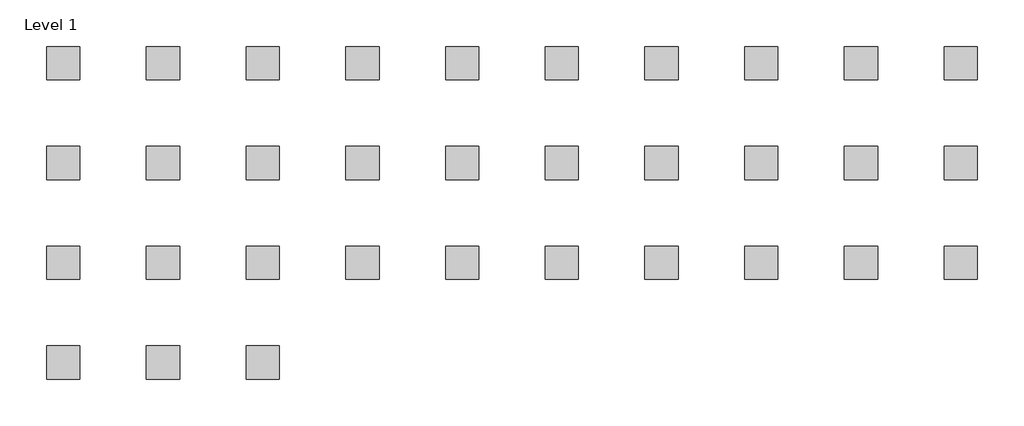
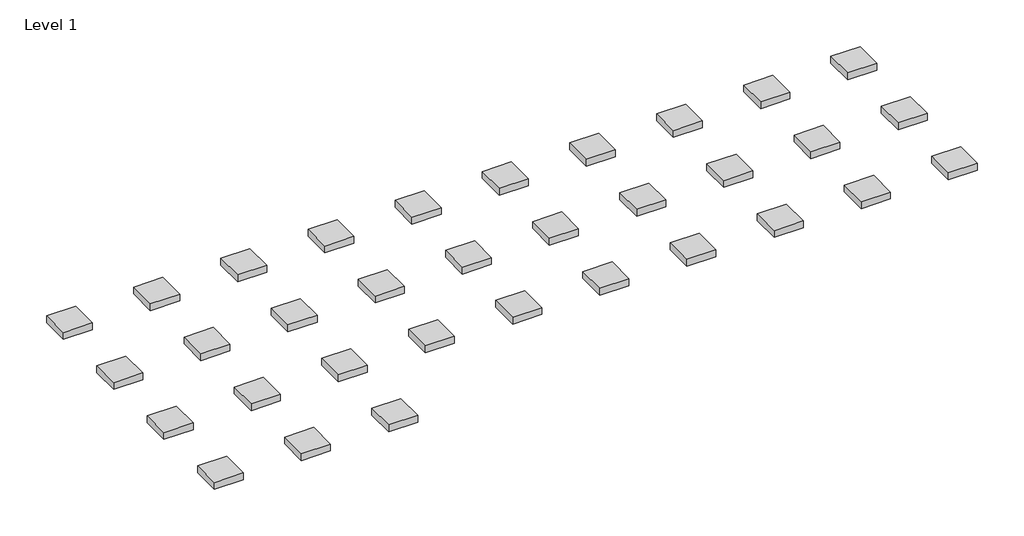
# One storey: 33 proxies.
"""IFC4 building model written with IfcOpenShell, lengths in millimetres."""

import ifcopenshell
import ifcopenshell.guid

model = None  # the IFC model being written
_history = None  # IfcOwnerHistory: only IFC2X3 demands one
_inside = {}  # id of a spatial element -> (the spatial element, [elements in it])
_under = {}  # id of a project, library or spatial element -> (it, [spatial elements below it])
_declared = {}  # id of a project -> (the project, [libraries it declares])
_typed = {}  # id of a type object -> (the type object, [elements of that type])
_made_of = {}  # id of a material, layer set ... -> (it, [elements and type objects made of it])


def new_model(schema):
    """Start an empty IFC model of exactly this schema.

    Asked for "IFC4X3", IfcOpenShell would pick the latest addendum, in which some entities
    have other attributes; the version numbers below select the first issue.
    IFC2X3 requires an IfcOwnerHistory on every rooted entity: one is made here for all.
    """
    global model, _history
    if schema == "IFC4X3":
        model = ifcopenshell.file(schema_version=(4, 3, 0, 0))
    else:
        model = ifcopenshell.file(schema=schema)
    _inside.clear()
    _under.clear()
    _declared.clear()
    _typed.clear()
    _made_of.clear()
    _history = None
    if model.schema == "IFC2X3":
        org = make("IfcOrganization", Name="unknown")
        user = make(
            "IfcPersonAndOrganization",
            ThePerson=make("IfcPerson", FamilyName="unknown"),
            TheOrganization=org,
        )
        app = make(
            "IfcApplication",
            ApplicationDeveloper=org,
            Version="unknown",
            ApplicationFullName="unknown",
            ApplicationIdentifier="unknown",
        )
        _history = make(
            "IfcOwnerHistory",
            OwningUser=user,
            OwningApplication=app,
            ChangeAction="ADDED",
            CreationDate=0,
        )
    return model


def make(cls, **values):
    """One entity of the class cls with the attributes given. An attribute that is None is left unset."""
    return model.create_entity(
        cls, **{name: value for name, value in values.items() if value is not None}
    )


def rooted(cls, **values):
    """An entity with a GlobalId (a new one), such as an element, a storey or a relation."""
    return make(cls, GlobalId=ifcopenshell.guid.new(), OwnerHistory=_history, **values)


def si_unit(unit_type, name, prefix=None):
    """IfcSIUnit, for example si_unit("LENGTHUNIT", "METRE", prefix="MILLI")."""
    return make("IfcSIUnit", UnitType=unit_type, Prefix=prefix, Name=name)


def assignment(units):
    """IfcUnitAssignment: the units of a project."""
    return None if units is None else make("IfcUnitAssignment", Units=units)


def point(xyz):
    """IfcCartesianPoint."""
    return None if xyz is None else make("IfcCartesianPoint", Coordinates=xyz)


def direction(xyz):
    """IfcDirection."""
    return None if xyz is None else make("IfcDirection", DirectionRatios=xyz)


def frame(location, z_axis=None, x_axis=None):
    """IfcAxis2Placement3D, a coordinate frame: its origin and axes. An axis left out is left unset."""
    return make(
        "IfcAxis2Placement3D",
        Location=point(location),
        Axis=direction(z_axis),
        RefDirection=direction(x_axis),
    )


def origin():
    """The frame at (0, 0, 0) with its axes left unset."""
    return frame((0.0, 0.0, 0.0))


def origin_with_axes():
    """The frame at (0, 0, 0) with the z axis (0, 0, 1) and the x axis (1, 0, 0) written out."""
    return frame((0.0, 0.0, 0.0), z_axis=(0.0, 0.0, 1.0), x_axis=(1.0, 0.0, 0.0))


def place(relative_to, where):
    """IfcLocalPlacement: puts the frame where relative to a parent placement (None: the world)."""
    return make(
        "IfcLocalPlacement", PlacementRelTo=relative_to, RelativePlacement=where
    )


def context(
    kind, dimensions, precision=None, world=None, true_north=None, identifier=None
):
    """IfcGeometricRepresentationContext, for example the 3D "Model" context."""
    return make(
        "IfcGeometricRepresentationContext",
        ContextIdentifier=identifier,
        ContextType=kind,
        CoordinateSpaceDimension=dimensions,
        Precision=precision,
        WorldCoordinateSystem=world,
        TrueNorth=true_north,
    )


def project(units=None, contexts=None):
    """IfcProject with its units and contexts."""
    return rooted(
        "IfcProject",
        Name="project",
        RepresentationContexts=contexts,
        UnitsInContext=assignment(units),
    )


def spatial(cls, under=None, at=None, **own):
    """A site, building, storey or space (cls), placed at a placement, below another one or the project."""
    s = rooted(cls, ObjectPlacement=at, **own)
    if under is not None:
        _under.setdefault(under.id(), (under, []))[1].append(s)
    return s


def polyline(points):
    """IfcPolyline through the points."""
    return make("IfcPolyline", Points=[point(p) for p in points])


def outline(outer, holes=None, kind="AREA"):
    """IfcArbitraryClosedProfileDef: a profile drawn as a closed curve; with holes, ...WithVoids."""
    if holes is None:
        return make("IfcArbitraryClosedProfileDef", ProfileType=kind, OuterCurve=outer)
    return make(
        "IfcArbitraryProfileDefWithVoids",
        ProfileType=kind,
        OuterCurve=outer,
        InnerCurves=holes,
    )


def extrude(swept, where, along, depth):
    """IfcExtrudedAreaSolid: the profile swept, set in the frame where, extruded along a direction by depth."""
    return make(
        "IfcExtrudedAreaSolid",
        SweptArea=swept,
        Position=where,
        ExtrudedDirection=direction(along),
        Depth=depth,
    )


def shape(context_of_items, identifier, shape_type, items):
    """IfcShapeRepresentation: the items that make up one representation, for example the "Body"."""
    return make(
        "IfcShapeRepresentation",
        ContextOfItems=context_of_items,
        RepresentationIdentifier=identifier,
        RepresentationType=shape_type,
        Items=items,
    )


def source(mapping_origin, context_of_items, identifier, shape_type, items):
    """IfcRepresentationMap: a shape defined once, which mapped items show again and again."""
    return make(
        "IfcRepresentationMap",
        MappingOrigin=mapping_origin,
        MappedRepresentation=shape(context_of_items, identifier, shape_type, items),
    )


def transform(
    local_origin,
    x_axis=None,
    y_axis=None,
    z_axis=None,
    scale=None,
    scale2=None,
    scale3=None,
    uniform=True,
):
    """IfcCartesianTransformationOperator3D, or its non-uniform kind. x_axis, y_axis, z_axis: its Axis1, 2, 3."""
    if uniform:
        return make(
            "IfcCartesianTransformationOperator3D",
            Axis1=direction(x_axis),
            Axis2=direction(y_axis),
            LocalOrigin=point(local_origin),
            Scale=scale,
            Axis3=direction(z_axis),
        )
    return make(
        "IfcCartesianTransformationOperator3DnonUniform",
        Axis1=direction(x_axis),
        Axis2=direction(y_axis),
        LocalOrigin=point(local_origin),
        Scale=scale,
        Axis3=direction(z_axis),
        Scale2=scale2,
        Scale3=scale3,
    )


def mapped(mapping_source, mapping_target):
    """IfcMappedItem: shows the shape of a source again, moved by a transform."""
    return make(
        "IfcMappedItem", MappingSource=mapping_source, MappingTarget=mapping_target
    )


def made_of(thing, what):
    """Note that an element or type object is made of a material, layer set ...; save() writes the relation."""
    if what is not None:
        _made_of.setdefault(what.id(), (what, []))[1].append(thing)
    return thing


def element(
    cls,
    number,
    at=None,
    inside=None,
    cuts=None,
    type_object=None,
    material=None,
    context=None,
    identifier="Body",
    shape_type=None,
    held_by="IfcProductDefinitionShape",
    body=None,
    shapes=None,
    **own,
):
    """One element of the class cls, such as IfcWall. Its Tag is "e" and its number.

    at: its placement. inside: the storey or other place that contains it. cuts: it is an
    opening in that element (IfcRelVoidsElement). A single representation is given by context,
    identifier, shape_type and body (its items); several are given by shapes. held_by: the class
    of the entity that holds the representations. save() writes the other relations.
    """
    e = rooted(cls, Tag="e%d" % number, ObjectPlacement=at, **own)
    if body is not None:
        shapes = [shape(context, identifier, shape_type, body)]
    if shapes is not None:
        e.Representation = make(held_by, Representations=shapes)
    if inside is not None:
        _inside.setdefault(inside.id(), (inside, []))[1].append(e)
    if cuts is not None:
        rooted(
            "IfcRelVoidsElement", RelatingBuildingElement=cuts, RelatedOpeningElement=e
        )
    if type_object is not None:
        _typed.setdefault(type_object.id(), (type_object, []))[1].append(e)
    return made_of(e, material)


def aggregate(whole, parts):
    """IfcRelAggregates: a whole, such as a stair, and the parts it consists of."""
    return rooted("IfcRelAggregates", RelatingObject=whole, RelatedObjects=parts)


def save(model, path):
    """Write the relations noted so far, then the file.

    IfcRelAggregates (storeys below a building ...), IfcRelContainedInSpatialStructure (elements
    in a storey), IfcRelDefinesByType, IfcRelAssociatesMaterial and IfcRelDeclares: one each for
    every whole, place, type object, material and project.
    """
    for whole, parts in _under.values():
        aggregate(whole, parts)
    for where, things in _inside.values():
        rooted(
            "IfcRelContainedInSpatialStructure",
            RelatedElements=things,
            RelatingStructure=where,
        )
    for kind, things in _typed.values():
        rooted("IfcRelDefinesByType", RelatedObjects=things, RelatingType=kind)
    for what, things in _made_of.values():
        rooted("IfcRelAssociatesMaterial", RelatedObjects=things, RelatingMaterial=what)
    for by, libraries in _declared.values():
        rooted("IfcRelDeclares", RelatingContext=by, RelatedDefinitions=libraries)
    model.write(path)


def rep01_rep01_cd3ddeb9(model_context):
    return source(origin(), model_context, "Body", "SweptSolid", [
        extrude(outline(polyline([(-12533.3774827, 3496.0579005), (-12533.3774827, 2496.0579005), (-13533.3774827, 2496.0579005), (-13533.3774827, 3496.0579005), (-12533.3774827, 3496.0579005)])), origin_with_axes(), (0.0, 0.0, 1.0), 250.0),
    ])


def rep1_rep01_36ff25d1(model_context):
    return source(origin(), model_context, "Body", "SweptSolid", [
        extrude(outline(polyline([(-9839.3863773, 5732.0711788), (-9839.3863773, 4732.0711788), (-10839.3863773, 4732.0711788), (-10839.3863773, 5732.0711788), (-9839.3863773, 5732.0711788)])), origin_with_axes(), (0.0, 0.0, 1.0), 250.0),
    ])


model = new_model("IFC4")

# Units and contexts
model_context = context("Model", 3, world=origin())
ifc_project = project(units=[si_unit("LENGTHUNIT", "METRE", prefix="MILLI")], contexts=[model_context])

# Site, building, storey
site = spatial("IfcSite", under=ifc_project)
building = spatial("IfcBuilding", under=site)
storey = spatial("IfcBuildingStorey", under=building, Name="Level 1", Elevation=0.0)

# Proxies
placement = place(None, origin())
rep01_rep01_shape = rep01_rep01_cd3ddeb9(model_context)
element("IfcBuildingElementProxy", 1, Name="REP01 : REP01", ObjectType="REP01 : REP01", at=placement, inside=storey, context=model_context, shape_type="MappedRepresentation", body=[
    mapped(rep01_rep01_shape, transform((0.0, 0.0, 0.0), x_axis=(1.0, 0.0, 0.0), y_axis=(0.0, 1.0, 0.0), z_axis=(0.0, 0.0, 1.0))),
])
rep1_rep01_shape = rep1_rep01_36ff25d1(model_context)
element("IfcBuildingElementProxy", 2, Name="REP1 : REP01", ObjectType="REP1 : REP01", at=placement, inside=storey, context=model_context, shape_type="MappedRepresentation", body=[
    mapped(rep1_rep01_shape, transform((306.0088946, -2236.0132783, 0.0), x_axis=(1.0, 0.0, 0.0), y_axis=(0.0, 1.0, 0.0), z_axis=(0.0, 0.0, 1.0))),
])
element("IfcBuildingElementProxy", 3, Name="REP10 : REP01", ObjectType="REP10 : REP01", at=placement, inside=storey, context=model_context, shape_type="MappedRepresentation", body=[
    mapped(rep1_rep01_shape, transform((-2693.9911054, -5236.0132783, 0.0), x_axis=(1.0, 0.0, 0.0), y_axis=(0.0, 1.0, 0.0), z_axis=(0.0, 0.0, 1.0))),
])
element("IfcBuildingElementProxy", 4, Name="REP11 : REP01", ObjectType="REP11 : REP01", at=placement, inside=storey, context=model_context, shape_type="MappedRepresentation", body=[
    mapped(rep1_rep01_shape, transform((306.0088946, -5236.0132783, 0.0), x_axis=(1.0, 0.0, 0.0), y_axis=(0.0, 1.0, 0.0), z_axis=(0.0, 0.0, 1.0))),
])
element("IfcBuildingElementProxy", 5, Name="REP12 : REP01", ObjectType="REP12 : REP01", at=placement, inside=storey, context=model_context, shape_type="MappedRepresentation", body=[
    mapped(rep1_rep01_shape, transform((3306.0088946, -5236.0132783, 0.0), x_axis=(1.0, 0.0, 0.0), y_axis=(0.0, 1.0, 0.0), z_axis=(0.0, 0.0, 1.0))),
])
element("IfcBuildingElementProxy", 6, Name="REP13 : REP01", ObjectType="REP13 : REP01", at=placement, inside=storey, context=model_context, shape_type="MappedRepresentation", body=[
    mapped(rep1_rep01_shape, transform((6306.0088946, -5236.0132783, 0.0), x_axis=(1.0, 0.0, 0.0), y_axis=(0.0, 1.0, 0.0), z_axis=(0.0, 0.0, 1.0))),
])
element("IfcBuildingElementProxy", 7, Name="REP14 : REP01", ObjectType="REP14 : REP01", at=placement, inside=storey, context=model_context, shape_type="MappedRepresentation", body=[
    mapped(rep1_rep01_shape, transform((9306.0088946, -5236.0132783, 0.0), x_axis=(1.0, 0.0, 0.0), y_axis=(0.0, 1.0, 0.0), z_axis=(0.0, 0.0, 1.0))),
])
element("IfcBuildingElementProxy", 8, Name="REP15 : REP01", ObjectType="REP15 : REP01", at=placement, inside=storey, context=model_context, shape_type="MappedRepresentation", body=[
    mapped(rep1_rep01_shape, transform((12306.0088946, -5236.0132783, 0.0), x_axis=(1.0, 0.0, 0.0), y_axis=(0.0, 1.0, 0.0), z_axis=(0.0, 0.0, 1.0))),
])
element("IfcBuildingElementProxy", 9, Name="REP16 : REP01", ObjectType="REP16 : REP01", at=placement, inside=storey, context=model_context, shape_type="MappedRepresentation", body=[
    mapped(rep1_rep01_shape, transform((15306.0088946, -5236.0132783, 0.0), x_axis=(1.0, 0.0, 0.0), y_axis=(0.0, 1.0, 0.0), z_axis=(0.0, 0.0, 1.0))),
])
element("IfcBuildingElementProxy", 10, Name="REP17 : REP01", ObjectType="REP17 : REP01", at=placement, inside=storey, context=model_context, shape_type="MappedRepresentation", body=[
    mapped(rep1_rep01_shape, transform((18306.0088946, -5236.0132783, 0.0), x_axis=(1.0, 0.0, 0.0), y_axis=(0.0, 1.0, 0.0), z_axis=(0.0, 0.0, 1.0))),
])
element("IfcBuildingElementProxy", 11, Name="REP18 : REP01", ObjectType="REP18 : REP01", at=placement, inside=storey, context=model_context, shape_type="MappedRepresentation", body=[
    mapped(rep1_rep01_shape, transform((21306.0088946, -5236.0132783, 0.0), x_axis=(1.0, 0.0, 0.0), y_axis=(0.0, 1.0, 0.0), z_axis=(0.0, 0.0, 1.0))),
])
element("IfcBuildingElementProxy", 12, Name="REP19 : REP01", ObjectType="REP19 : REP01", at=placement, inside=storey, context=model_context, shape_type="MappedRepresentation", body=[
    mapped(rep1_rep01_shape, transform((24306.0088946, -5236.0132783, 0.0), x_axis=(1.0, 0.0, 0.0), y_axis=(0.0, 1.0, 0.0), z_axis=(0.0, 0.0, 1.0))),
])
element("IfcBuildingElementProxy", 13, Name="REP2 : REP01", ObjectType="REP2 : REP01", at=placement, inside=storey, context=model_context, shape_type="MappedRepresentation", body=[
    mapped(rep1_rep01_shape, transform((3306.0088946, -2236.0132783, 0.0), x_axis=(1.0, 0.0, 0.0), y_axis=(0.0, 1.0, 0.0), z_axis=(0.0, 0.0, 1.0))),
])
element("IfcBuildingElementProxy", 14, Name="REP20 : REP01", ObjectType="REP20 : REP01", at=placement, inside=storey, context=model_context, shape_type="MappedRepresentation", body=[
    mapped(rep1_rep01_shape, transform((-2693.9911054, -8236.0132783, 0.0), x_axis=(1.0, 0.0, 0.0), y_axis=(0.0, 1.0, 0.0), z_axis=(0.0, 0.0, 1.0))),
])
element("IfcBuildingElementProxy", 15, Name="REP21 : REP01", ObjectType="REP21 : REP01", at=placement, inside=storey, context=model_context, shape_type="MappedRepresentation", body=[
    mapped(rep1_rep01_shape, transform((306.0088946, -8236.0132783, 0.0), x_axis=(1.0, 0.0, 0.0), y_axis=(0.0, 1.0, 0.0), z_axis=(0.0, 0.0, 1.0))),
])
element("IfcBuildingElementProxy", 16, Name="REP22 : REP01", ObjectType="REP22 : REP01", at=placement, inside=storey, context=model_context, shape_type="MappedRepresentation", body=[
    mapped(rep1_rep01_shape, transform((3306.0088946, -8236.0132783, 0.0), x_axis=(1.0, 0.0, 0.0), y_axis=(0.0, 1.0, 0.0), z_axis=(0.0, 0.0, 1.0))),
])
element("IfcBuildingElementProxy", 17, Name="REP23 : REP01", ObjectType="REP23 : REP01", at=placement, inside=storey, context=model_context, shape_type="MappedRepresentation", body=[
    mapped(rep1_rep01_shape, transform((6306.0088946, -8236.0132783, 0.0), x_axis=(1.0, 0.0, 0.0), y_axis=(0.0, 1.0, 0.0), z_axis=(0.0, 0.0, 1.0))),
])
element("IfcBuildingElementProxy", 18, Name="REP24 : REP01", ObjectType="REP24 : REP01", at=placement, inside=storey, context=model_context, shape_type="MappedRepresentation", body=[
    mapped(rep1_rep01_shape, transform((9306.0088946, -8236.0132783, 0.0), x_axis=(1.0, 0.0, 0.0), y_axis=(0.0, 1.0, 0.0), z_axis=(0.0, 0.0, 1.0))),
])
element("IfcBuildingElementProxy", 19, Name="REP25 : REP01", ObjectType="REP25 : REP01", at=placement, inside=storey, context=model_context, shape_type="MappedRepresentation", body=[
    mapped(rep1_rep01_shape, transform((12306.0088946, -8236.0132783, 0.0), x_axis=(1.0, 0.0, 0.0), y_axis=(0.0, 1.0, 0.0), z_axis=(0.0, 0.0, 1.0))),
])
element("IfcBuildingElementProxy", 20, Name="REP26 : REP01", ObjectType="REP26 : REP01", at=placement, inside=storey, context=model_context, shape_type="MappedRepresentation", body=[
    mapped(rep1_rep01_shape, transform((15306.0088946, -8236.0132783, 0.0), x_axis=(1.0, 0.0, 0.0), y_axis=(0.0, 1.0, 0.0), z_axis=(0.0, 0.0, 1.0))),
])
element("IfcBuildingElementProxy", 21, Name="REP27 : REP01", ObjectType="REP27 : REP01", at=placement, inside=storey, context=model_context, shape_type="MappedRepresentation", body=[
    mapped(rep1_rep01_shape, transform((18306.0088946, -8236.0132783, 0.0), x_axis=(1.0, 0.0, 0.0), y_axis=(0.0, 1.0, 0.0), z_axis=(0.0, 0.0, 1.0))),
])
element("IfcBuildingElementProxy", 22, Name="REP28 : REP01", ObjectType="REP28 : REP01", at=placement, inside=storey, context=model_context, shape_type="MappedRepresentation", body=[
    mapped(rep1_rep01_shape, transform((21306.0088946, -8236.0132783, 0.0), x_axis=(1.0, 0.0, 0.0), y_axis=(0.0, 1.0, 0.0), z_axis=(0.0, 0.0, 1.0))),
])
element("IfcBuildingElementProxy", 23, Name="REP29 : REP01", ObjectType="REP29 : REP01", at=placement, inside=storey, context=model_context, shape_type="MappedRepresentation", body=[
    mapped(rep1_rep01_shape, transform((24306.0088946, -8236.0132783, 0.0), x_axis=(1.0, 0.0, 0.0), y_axis=(0.0, 1.0, 0.0), z_axis=(0.0, 0.0, 1.0))),
])
element("IfcBuildingElementProxy", 24, Name="REP3 : REP01", ObjectType="REP3 : REP01", at=placement, inside=storey, context=model_context, shape_type="MappedRepresentation", body=[
    mapped(rep1_rep01_shape, transform((6306.0088946, -2236.0132783, 0.0), x_axis=(1.0, 0.0, 0.0), y_axis=(0.0, 1.0, 0.0), z_axis=(0.0, 0.0, 1.0))),
])
element("IfcBuildingElementProxy", 25, Name="REP30 : REP01", ObjectType="REP30 : REP01", at=placement, inside=storey, context=model_context, shape_type="MappedRepresentation", body=[
    mapped(rep1_rep01_shape, transform((-2693.9911054, -11236.0132783, 0.0), x_axis=(1.0, 0.0, 0.0), y_axis=(0.0, 1.0, 0.0), z_axis=(0.0, 0.0, 1.0))),
])
element("IfcBuildingElementProxy", 26, Name="REP31 : REP01", ObjectType="REP31 : REP01", at=placement, inside=storey, context=model_context, shape_type="MappedRepresentation", body=[
    mapped(rep1_rep01_shape, transform((306.0088946, -11236.0132783, 0.0), x_axis=(1.0, 0.0, 0.0), y_axis=(0.0, 1.0, 0.0), z_axis=(0.0, 0.0, 1.0))),
])
element("IfcBuildingElementProxy", 27, Name="REP32 : REP01", ObjectType="REP32 : REP01", at=placement, inside=storey, context=model_context, shape_type="MappedRepresentation", body=[
    mapped(rep1_rep01_shape, transform((3306.0088946, -11236.0132783, 0.0), x_axis=(1.0, 0.0, 0.0), y_axis=(0.0, 1.0, 0.0), z_axis=(0.0, 0.0, 1.0))),
])
element("IfcBuildingElementProxy", 28, Name="REP4 : REP01", ObjectType="REP4 : REP01", at=placement, inside=storey, context=model_context, shape_type="MappedRepresentation", body=[
    mapped(rep1_rep01_shape, transform((9306.0088946, -2236.0132783, 0.0), x_axis=(1.0, 0.0, 0.0), y_axis=(0.0, 1.0, 0.0), z_axis=(0.0, 0.0, 1.0))),
])
element("IfcBuildingElementProxy", 29, Name="REP5 : REP01", ObjectType="REP5 : REP01", at=placement, inside=storey, context=model_context, shape_type="MappedRepresentation", body=[
    mapped(rep1_rep01_shape, transform((12306.0088946, -2236.0132783, 0.0), x_axis=(1.0, 0.0, 0.0), y_axis=(0.0, 1.0, 0.0), z_axis=(0.0, 0.0, 1.0))),
])
element("IfcBuildingElementProxy", 30, Name="REP6 : REP01", ObjectType="REP6 : REP01", at=placement, inside=storey, context=model_context, shape_type="MappedRepresentation", body=[
    mapped(rep1_rep01_shape, transform((15306.0088946, -2236.0132783, 0.0), x_axis=(1.0, 0.0, 0.0), y_axis=(0.0, 1.0, 0.0), z_axis=(0.0, 0.0, 1.0))),
])
element("IfcBuildingElementProxy", 31, Name="REP7 : REP01", ObjectType="REP7 : REP01", at=placement, inside=storey, context=model_context, shape_type="MappedRepresentation", body=[
    mapped(rep1_rep01_shape, transform((18306.0088946, -2236.0132783, 0.0), x_axis=(1.0, 0.0, 0.0), y_axis=(0.0, 1.0, 0.0), z_axis=(0.0, 0.0, 1.0))),
])
element("IfcBuildingElementProxy", 32, Name="REP8 : REP01", ObjectType="REP8 : REP01", at=placement, inside=storey, context=model_context, shape_type="MappedRepresentation", body=[
    mapped(rep1_rep01_shape, transform((21306.0088946, -2236.0132783, 0.0), x_axis=(1.0, 0.0, 0.0), y_axis=(0.0, 1.0, 0.0), z_axis=(0.0, 0.0, 1.0))),
])
element("IfcBuildingElementProxy", 33, Name="REP9 : REP01", ObjectType="REP9 : REP01", at=placement, inside=storey, context=model_context, shape_type="MappedRepresentation", body=[
    mapped(rep1_rep01_shape, transform((24306.0088946, -2236.0132783, 0.0), x_axis=(1.0, 0.0, 0.0), y_axis=(0.0, 1.0, 0.0), z_axis=(0.0, 0.0, 1.0))),
])

save(model, "model.ifc")
